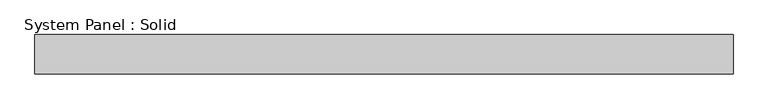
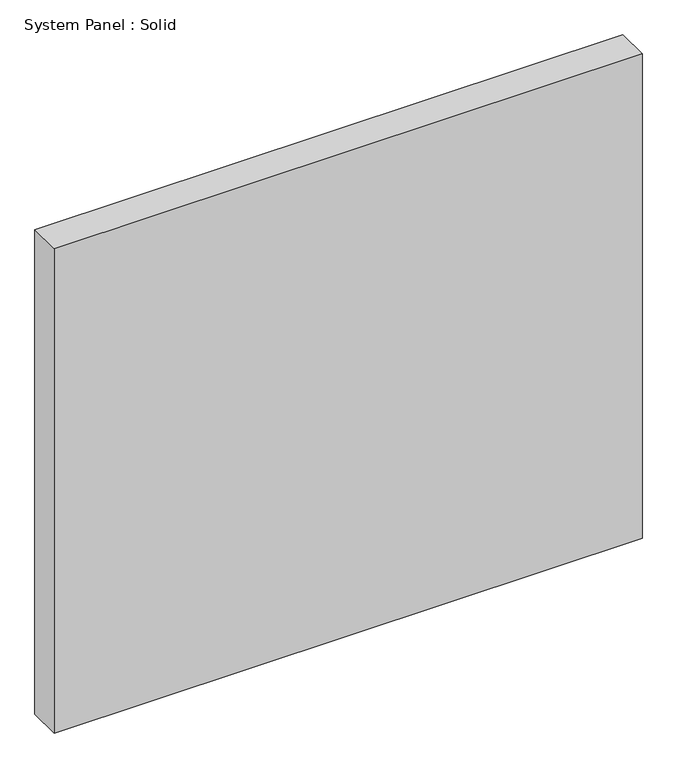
"""IFC4 building model written with IfcOpenShell, lengths in millimetres: plate geometry, System Panel : Solid."""

import ifcopenshell
import ifcopenshell.guid

model = None  # the IFC model being written
_history = None  # IfcOwnerHistory: only IFC2X3 demands one
_inside = {}  # id of a spatial element -> (the spatial element, [elements in it])
_under = {}  # id of a project, library or spatial element -> (it, [spatial elements below it])
_declared = {}  # id of a project -> (the project, [libraries it declares])
_typed = {}  # id of a type object -> (the type object, [elements of that type])
_made_of = {}  # id of a material, layer set ... -> (it, [elements and type objects made of it])


def new_model(schema):
    """Start an empty IFC model of exactly this schema.

    Asked for "IFC4X3", IfcOpenShell would pick the latest addendum, in which some entities
    have other attributes; the version numbers below select the first issue.
    IFC2X3 requires an IfcOwnerHistory on every rooted entity: one is made here for all.
    """
    global model, _history
    if schema == "IFC4X3":
        model = ifcopenshell.file(schema_version=(4, 3, 0, 0))
    else:
        model = ifcopenshell.file(schema=schema)
    _inside.clear()
    _under.clear()
    _declared.clear()
    _typed.clear()
    _made_of.clear()
    _history = None
    if model.schema == "IFC2X3":
        org = make("IfcOrganization", Name="unknown")
        user = make(
            "IfcPersonAndOrganization",
            ThePerson=make("IfcPerson", FamilyName="unknown"),
            TheOrganization=org,
        )
        app = make(
            "IfcApplication",
            ApplicationDeveloper=org,
            Version="unknown",
            ApplicationFullName="unknown",
            ApplicationIdentifier="unknown",
        )
        _history = make(
            "IfcOwnerHistory",
            OwningUser=user,
            OwningApplication=app,
            ChangeAction="ADDED",
            CreationDate=0,
        )
    return model


def make(cls, **values):
    """One entity of the class cls with the attributes given. An attribute that is None is left unset."""
    return model.create_entity(
        cls, **{name: value for name, value in values.items() if value is not None}
    )


def rooted(cls, **values):
    """An entity with a GlobalId (a new one), such as an element, a storey or a relation."""
    return make(cls, GlobalId=ifcopenshell.guid.new(), OwnerHistory=_history, **values)


def si_unit(unit_type, name, prefix=None):
    """IfcSIUnit, for example si_unit("LENGTHUNIT", "METRE", prefix="MILLI")."""
    return make("IfcSIUnit", UnitType=unit_type, Prefix=prefix, Name=name)


def assignment(units):
    """IfcUnitAssignment: the units of a project."""
    return None if units is None else make("IfcUnitAssignment", Units=units)


def point(xyz):
    """IfcCartesianPoint."""
    return None if xyz is None else make("IfcCartesianPoint", Coordinates=xyz)


def direction(xyz):
    """IfcDirection."""
    return None if xyz is None else make("IfcDirection", DirectionRatios=xyz)


def frame(location, z_axis=None, x_axis=None):
    """IfcAxis2Placement3D, a coordinate frame: its origin and axes. An axis left out is left unset."""
    return make(
        "IfcAxis2Placement3D",
        Location=point(location),
        Axis=direction(z_axis),
        RefDirection=direction(x_axis),
    )


def origin():
    """The frame at (0, 0, 0) with its axes left unset."""
    return frame((0.0, 0.0, 0.0))


def origin_with_axes():
    """The frame at (0, 0, 0) with the z axis (0, 0, 1) and the x axis (1, 0, 0) written out."""
    return frame((0.0, 0.0, 0.0), z_axis=(0.0, 0.0, 1.0), x_axis=(1.0, 0.0, 0.0))


def place(relative_to, where):
    """IfcLocalPlacement: puts the frame where relative to a parent placement (None: the world)."""
    return make(
        "IfcLocalPlacement", PlacementRelTo=relative_to, RelativePlacement=where
    )


def context(
    kind, dimensions, precision=None, world=None, true_north=None, identifier=None
):
    """IfcGeometricRepresentationContext, for example the 3D "Model" context."""
    return make(
        "IfcGeometricRepresentationContext",
        ContextIdentifier=identifier,
        ContextType=kind,
        CoordinateSpaceDimension=dimensions,
        Precision=precision,
        WorldCoordinateSystem=world,
        TrueNorth=true_north,
    )


def project(units=None, contexts=None):
    """IfcProject with its units and contexts."""
    return rooted(
        "IfcProject",
        Name="project",
        RepresentationContexts=contexts,
        UnitsInContext=assignment(units),
    )


def spatial(cls, under=None, at=None, **own):
    """A site, building, storey or space (cls), placed at a placement, below another one or the project."""
    s = rooted(cls, ObjectPlacement=at, **own)
    if under is not None:
        _under.setdefault(under.id(), (under, []))[1].append(s)
    return s


def polyline(points):
    """IfcPolyline through the points."""
    return make("IfcPolyline", Points=[point(p) for p in points])


def outline(outer, holes=None, kind="AREA"):
    """IfcArbitraryClosedProfileDef: a profile drawn as a closed curve; with holes, ...WithVoids."""
    if holes is None:
        return make("IfcArbitraryClosedProfileDef", ProfileType=kind, OuterCurve=outer)
    return make(
        "IfcArbitraryProfileDefWithVoids",
        ProfileType=kind,
        OuterCurve=outer,
        InnerCurves=holes,
    )


def extrude(swept, where, along, depth):
    """IfcExtrudedAreaSolid: the profile swept, set in the frame where, extruded along a direction by depth."""
    return make(
        "IfcExtrudedAreaSolid",
        SweptArea=swept,
        Position=where,
        ExtrudedDirection=direction(along),
        Depth=depth,
    )


def shape(context_of_items, identifier, shape_type, items):
    """IfcShapeRepresentation: the items that make up one representation, for example the "Body"."""
    return make(
        "IfcShapeRepresentation",
        ContextOfItems=context_of_items,
        RepresentationIdentifier=identifier,
        RepresentationType=shape_type,
        Items=items,
    )


def source(mapping_origin, context_of_items, identifier, shape_type, items):
    """IfcRepresentationMap: a shape defined once, which mapped items show again and again."""
    return make(
        "IfcRepresentationMap",
        MappingOrigin=mapping_origin,
        MappedRepresentation=shape(context_of_items, identifier, shape_type, items),
    )


def transform(
    local_origin,
    x_axis=None,
    y_axis=None,
    z_axis=None,
    scale=None,
    scale2=None,
    scale3=None,
    uniform=True,
):
    """IfcCartesianTransformationOperator3D, or its non-uniform kind. x_axis, y_axis, z_axis: its Axis1, 2, 3."""
    if uniform:
        return make(
            "IfcCartesianTransformationOperator3D",
            Axis1=direction(x_axis),
            Axis2=direction(y_axis),
            LocalOrigin=point(local_origin),
            Scale=scale,
            Axis3=direction(z_axis),
        )
    return make(
        "IfcCartesianTransformationOperator3DnonUniform",
        Axis1=direction(x_axis),
        Axis2=direction(y_axis),
        LocalOrigin=point(local_origin),
        Scale=scale,
        Axis3=direction(z_axis),
        Scale2=scale2,
        Scale3=scale3,
    )


def mapped(mapping_source, mapping_target):
    """IfcMappedItem: shows the shape of a source again, moved by a transform."""
    return make(
        "IfcMappedItem", MappingSource=mapping_source, MappingTarget=mapping_target
    )


def made_of(thing, what):
    """Note that an element or type object is made of a material, layer set ...; save() writes the relation."""
    if what is not None:
        _made_of.setdefault(what.id(), (what, []))[1].append(thing)
    return thing


def element(
    cls,
    number,
    at=None,
    inside=None,
    cuts=None,
    type_object=None,
    material=None,
    context=None,
    identifier="Body",
    shape_type=None,
    held_by="IfcProductDefinitionShape",
    body=None,
    shapes=None,
    **own,
):
    """One element of the class cls, such as IfcWall. Its Tag is "e" and its number.

    at: its placement. inside: the storey or other place that contains it. cuts: it is an
    opening in that element (IfcRelVoidsElement). A single representation is given by context,
    identifier, shape_type and body (its items); several are given by shapes. held_by: the class
    of the entity that holds the representations. save() writes the other relations.
    """
    e = rooted(cls, Tag="e%d" % number, ObjectPlacement=at, **own)
    if body is not None:
        shapes = [shape(context, identifier, shape_type, body)]
    if shapes is not None:
        e.Representation = make(held_by, Representations=shapes)
    if inside is not None:
        _inside.setdefault(inside.id(), (inside, []))[1].append(e)
    if cuts is not None:
        rooted(
            "IfcRelVoidsElement", RelatingBuildingElement=cuts, RelatedOpeningElement=e
        )
    if type_object is not None:
        _typed.setdefault(type_object.id(), (type_object, []))[1].append(e)
    return made_of(e, material)


def aggregate(whole, parts):
    """IfcRelAggregates: a whole, such as a stair, and the parts it consists of."""
    return rooted("IfcRelAggregates", RelatingObject=whole, RelatedObjects=parts)


def save(model, path):
    """Write the relations noted so far, then the file.

    IfcRelAggregates (storeys below a building ...), IfcRelContainedInSpatialStructure (elements
    in a storey), IfcRelDefinesByType, IfcRelAssociatesMaterial and IfcRelDeclares: one each for
    every whole, place, type object, material and project.
    """
    for whole, parts in _under.values():
        aggregate(whole, parts)
    for where, things in _inside.values():
        rooted(
            "IfcRelContainedInSpatialStructure",
            RelatedElements=things,
            RelatingStructure=where,
        )
    for kind, things in _typed.values():
        rooted("IfcRelDefinesByType", RelatedObjects=things, RelatingType=kind)
    for what, things in _made_of.values():
        rooted("IfcRelAssociatesMaterial", RelatedObjects=things, RelatingMaterial=what)
    for by, libraries in _declared.values():
        rooted("IfcRelDeclares", RelatingContext=by, RelatedDefinitions=libraries)
    model.write(path)


def system_panel_solid_8be1541b(model_context):
    return source(origin(), model_context, "Body", "SweptSolid", [
        extrude(outline(polyline([(530.9999999, -49.5), (-530.9999999, -49.5), (-530.9999999, 10.5), (530.9999999, 10.5), (530.9999999, -49.5)])), origin_with_axes(), (0.0, 0.0, 1.0), 925.0),
    ])


if __name__ == "__main__":
    model = new_model("IFC4")
    model_context = context("Model", 3, world=origin())
    ifc_project = project(units=[si_unit("LENGTHUNIT", "METRE", prefix="MILLI")], contexts=[model_context])
    site = spatial("IfcSite", under=ifc_project)
    building = spatial("IfcBuilding", under=site)
    placement = place(None, origin())
    system_panel_solid_shape = system_panel_solid_8be1541b(model_context)
    element("IfcPlate", 1, ObjectType="System Panel : Solid", at=placement, inside=building, context=model_context, shape_type="MappedRepresentation", body=[
        mapped(system_panel_solid_shape, transform((0.0, 0.0, 0.0), x_axis=(1.0, 0.0, 0.0), y_axis=(0.0, 1.0, 0.0), z_axis=(0.0, 0.0, 1.0))),
    ])
    save(model, "model.ifc")
